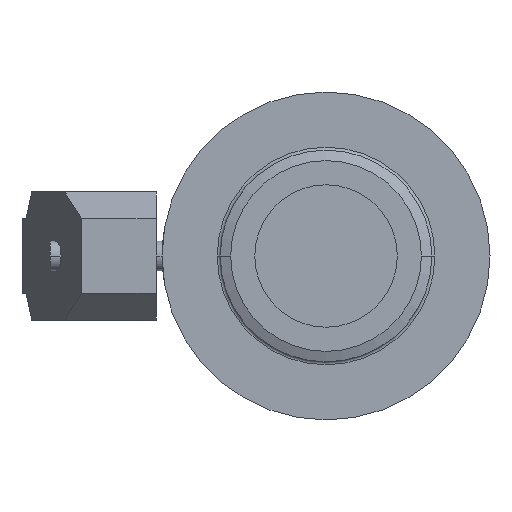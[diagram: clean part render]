
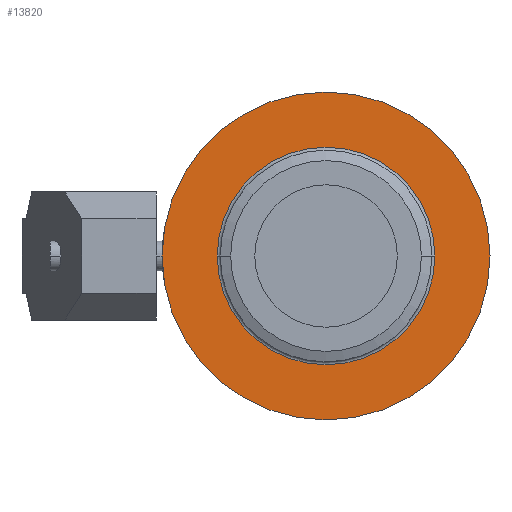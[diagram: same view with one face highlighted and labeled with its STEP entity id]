
A CAD part, left-side view. The second image highlights one B-rep face of the part: STEP entity #13820.
In plain terms, the highlighted planar face has unit normal (-1, 0, 0).
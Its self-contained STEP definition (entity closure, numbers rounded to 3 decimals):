
#13340=CARTESIAN_POINT('',(60.731,-4.906,0.));
#13350=VERTEX_POINT('',#13340);
#13380=CARTESIAN_POINT('',(60.731,-59.906,0.));
#13390=DIRECTION('',(-1.,0.,0.));
#13400=DIRECTION('',(0.,1.,0.));
#13410=AXIS2_PLACEMENT_3D('',#13380,#13390,#13400);
#13420=CIRCLE('',#13410,55.);
#13430=CARTESIAN_POINT('',(60.731,-114.906,
0.));
#13440=VERTEX_POINT('',#13430);
#13450=EDGE_CURVE('',#13350,#13440,#13420,.T.);
#13570=CARTESIAN_POINT('',(60.731,-20.806,0.));
#13580=DIRECTION('',(1.,0.,0.));
#13590=DIRECTION('',(0.,1.,0.));
#13600=AXIS2_PLACEMENT_3D('',#13570,#13580,#13590);
#13610=PLANE('',#13600);
#13620=ORIENTED_EDGE('',*,*,#13450,.T.);
#13630=EDGE_CURVE('',#13440,#13350,#13420,.T.);
#13640=ORIENTED_EDGE('',*,*,#13630,.T.);
#13650=EDGE_LOOP('',(#13640,#13620));
#13660=FACE_OUTER_BOUND('',#13650,.T.);
#13670=CARTESIAN_POINT('',(60.731,-59.906,0.));
#13680=DIRECTION('',(-1.,0.,0.));
#13690=DIRECTION('',(0.,1.,0.));
#13700=AXIS2_PLACEMENT_3D('',#13670,#13680,#13690);
#13710=CIRCLE('',#13700,36.5);
#13720=CARTESIAN_POINT('',(60.731,-23.406,0.));
#13730=VERTEX_POINT('',#13720);
#13740=CARTESIAN_POINT('',(60.731,-96.406,0.));
#13750=VERTEX_POINT('',#13740);
#13760=EDGE_CURVE('',#13730,#13750,#13710,.T.);
#13770=ORIENTED_EDGE('',*,*,#13760,.F.);
#13780=EDGE_CURVE('',#13750,#13730,#13710,.T.);
#13790=ORIENTED_EDGE('',*,*,#13780,.F.);
#13800=EDGE_LOOP('',(#13790,#13770));
#13810=FACE_BOUND('',#13800,.T.);
#13820=ADVANCED_FACE('',(#13660,#13810),#13610,.F.);
